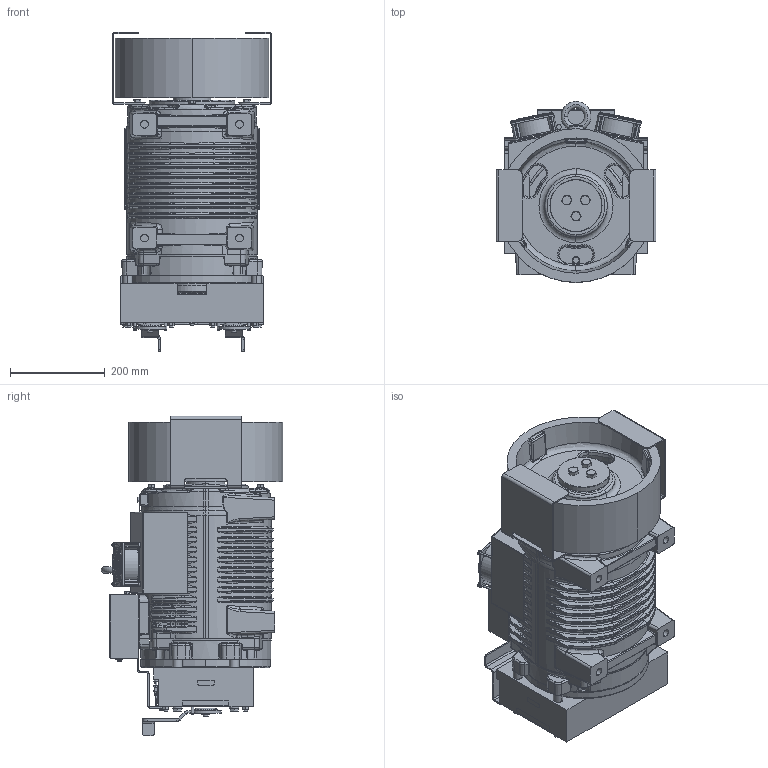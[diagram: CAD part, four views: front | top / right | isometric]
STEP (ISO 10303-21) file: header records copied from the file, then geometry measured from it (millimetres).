
FILE_DESCRIPTION((''),'2;1');
FILE_NAME('00359514_ASM','2020-02-13T',('PolieriDB'),('Sicor spa'),'CREO PARAMETRIC BY PTC INC, 2017170','CREO PARAMETRIC BY PTC INC, 2017170','');
FILE_SCHEMA(('CONFIG_CONTROL_DESIGN'));
Products named in the file (5): SG38; 00213495; 00213488_GUR0118; 00359532; 00359514_ASM
Assembly tree (4 placements, depth 2):
  00359514_ASM
    SG38
    00213495
    00213488_GUR0118
    00359532
Bounding box: 337 x 382 x 673.52 mm (x, y, z)
Volume: 4654119.3 mm3; surface area: 2390343.4 mm2
Topology: 3 solids, 391 shells, 4356 faces, 14219 edges, 9883 vertices
Faces by surface type: plane 1584, cylinder 1096, bspline 779, torus 533, cone 322, sphere 40, revolution 2
Entity records: 238516 total; most frequent: CARTESIAN_POINT 126159, ORIENTED_EDGE 22413, DIRECTION 20803, EDGE_CURVE 14175, VERTEX_POINT 9883, AXIS2_PLACEMENT_3D 7090, VECTOR 6621, LINE 6621
